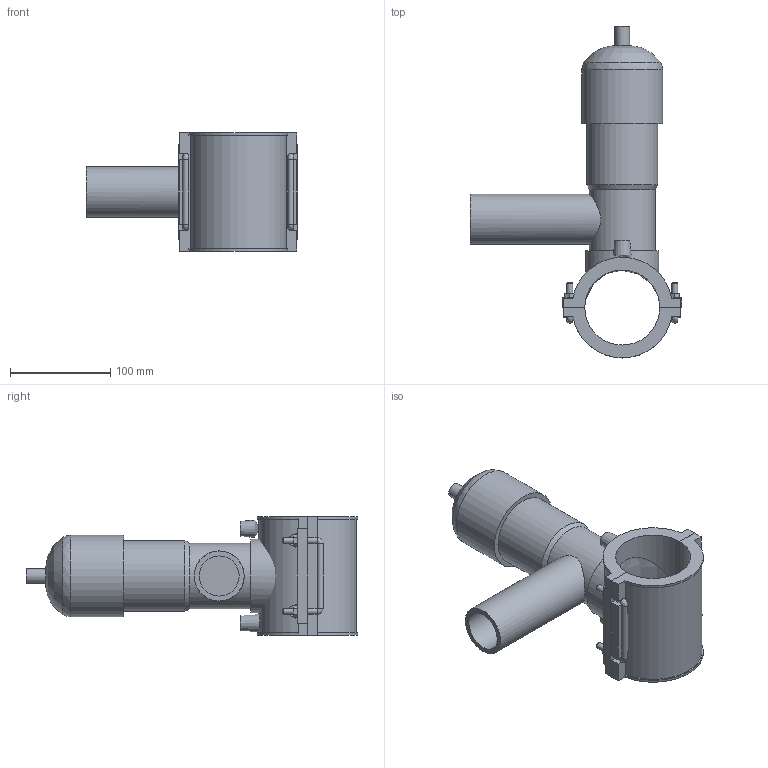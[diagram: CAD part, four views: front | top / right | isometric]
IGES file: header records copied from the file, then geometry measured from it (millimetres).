
Global section: file name: 495404075050.ipt; native system: Autodesk Inventor 2015; preprocessor: unknown; author: KIM; date: 20171106.094240; units: millimetre
Bounding box: 211.5 x 331.71 x 118 mm (x, y, z)
Volume: 1406436.7 mm3; surface area: 198082.6 mm2
Topology: 3 solids, 3 shells, 141 faces, 352 edges, 222 vertices
Faces by surface type: plane 89, cylinder 25, revolution 12, bspline 8, cone 7
Full cylindrical faces by diameter (mm): 4 x2, 6 x10, 14.64 x1, 50 x1, 65.88 x1, 70.76 x1, 73.2 x1, 81.333 x1
